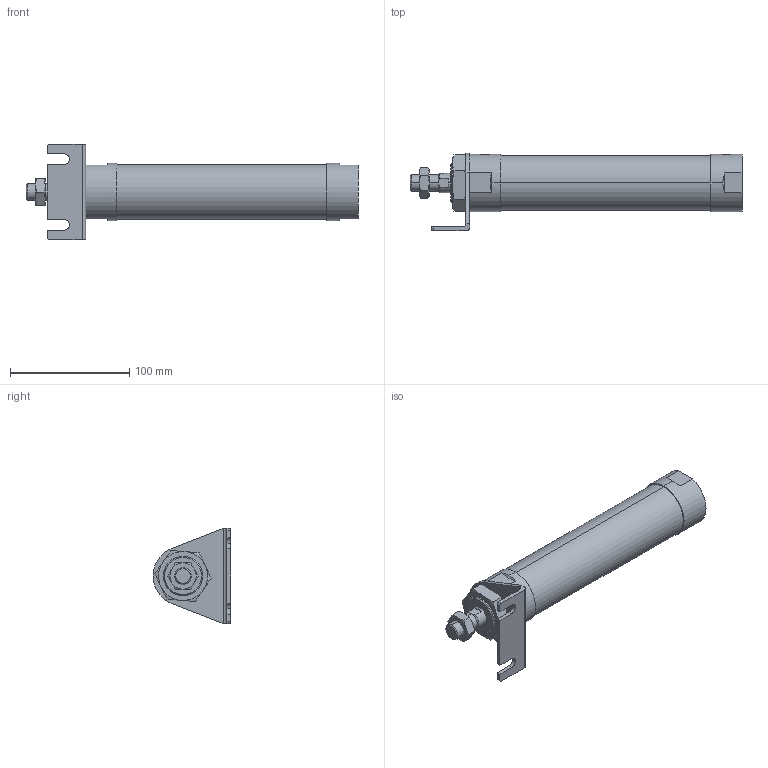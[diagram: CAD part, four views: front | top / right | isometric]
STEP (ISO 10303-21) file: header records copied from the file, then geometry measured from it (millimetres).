
FILE_DESCRIPTION (( 'STEP AP203' ), '1' );
FILE_NAME ('JGND2-40-125-L.STEP', '2016-08-04T03:11:42', ( '' ), ( '' ), 'SwSTEP 2.0', 'SolidWorks 2014', '' );
FILE_SCHEMA (( 'CONFIG_CONTROL_DESIGN' ));
Length unit declared in the file: millimetre
Products named in the file (5): J#2-40-125(P); JGND2-40-125-L; J#2-40-L
Assembly tree (4 placements, depth 2):
  JGND2-40-125-L
    J#2-40-125(P)
    (unnamed)
    (unnamed)
    J#2-40-L
Bounding box: 278 x 65 x 80 mm (x, y, z)
Volume: 427588 mm3; surface area: 57994.2 mm2
Topology: 4 solids, 4 shells, 116 faces, 273 edges, 167 vertices
Faces by surface type: plane 47, cylinder 32, torus 24, cone 13
Entity records: 4269 total; most frequent: CARTESIAN_POINT 1150, DIRECTION 548, ORIENTED_EDGE 538, EDGE_CURVE 269, AXIS2_PLACEMENT_3D 219, VERTEX_POINT 167, EDGE_LOOP 128, FACE_OUTER_BOUND 116
